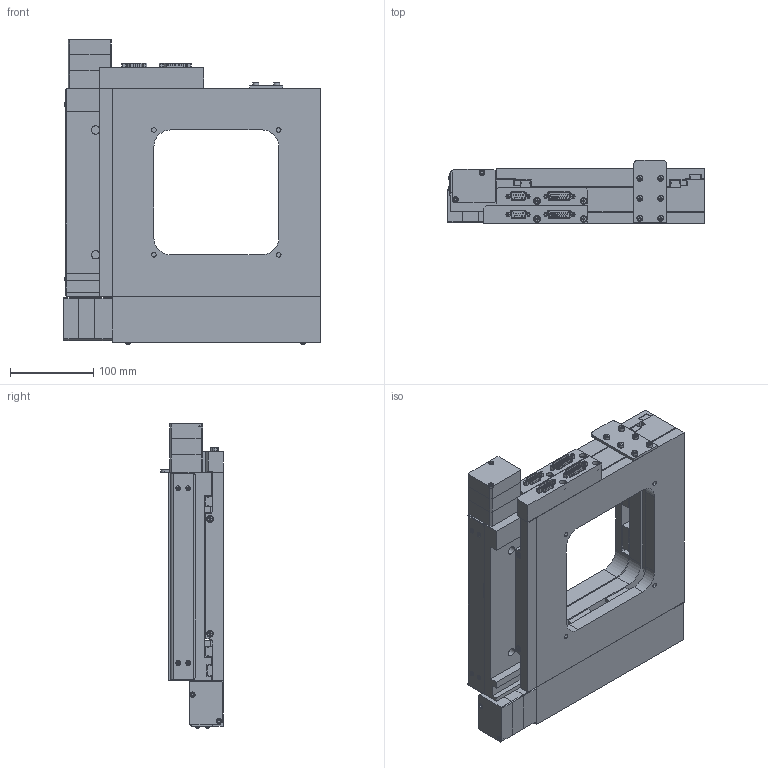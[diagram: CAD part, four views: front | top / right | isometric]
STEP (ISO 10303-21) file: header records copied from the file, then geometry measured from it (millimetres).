
FILE_DESCRIPTION (( 'STEP AP214' ), '1' );
FILE_NAME ('OXY-150-Rotary Encoder-EXPORT.STEP', '2025-07-09T17:07:22', ( 'lab' ), ( '' ), 'SwSTEP 2.0', 'SolidWorks 2018', '' );
FILE_SCHEMA (( 'AUTOMOTIVE_DESIGN' ));
Length unit declared in the file: millimetre
Products named in the file (11): 1000010_file_export15; 1000005_file_export13; 1000009_file_export28; 1000003_file_export5; 1000006_file_export14; 1000004_file_export12; 1000001_file_export3; OXY-150-Rotary Encoder-EXPORT; 1000008_file_export27; 1000002_file_export4; 1000007
Assembly tree (26 placements, depth 2):
  OXY-150-Rotary Encoder-EXPORT
    1000001_file_export3
    1000002_file_export4
    1000003_file_export5
    1000004_file_export12  x8
    1000005_file_export13  x2
    1000006_file_export14  x2
    1000007  x2
    1000008_file_export27  x2
    1000009_file_export28  x6
    1000010_file_export15
Bounding box: 308.4 x 75.5 x 365.81 mm (x, y, z)
Volume: 4015852.3 mm3; surface area: 739648.6 mm2
Topology: 139 solids, 139 shells, 2734 faces, 6313 edges, 3944 vertices
Faces by surface type: plane 1606, cylinder 588, bspline 340, cone 184, sphere 16
Entity records: 64481 total; most frequent: CARTESIAN_POINT 15382, DIRECTION 8826, ORIENTED_EDGE 8764, EDGE_CURVE 4382, AXIS2_PLACEMENT_3D 2963, LINE 2900, VECTOR 2900, VERTEX_POINT 2791
